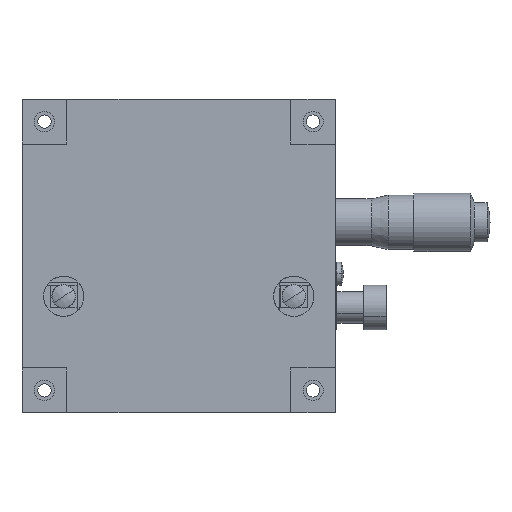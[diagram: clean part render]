
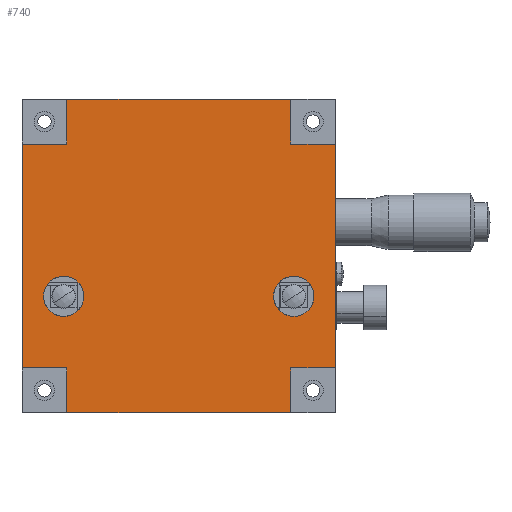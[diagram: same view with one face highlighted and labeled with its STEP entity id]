
A CAD part, front view. The second image highlights one B-rep face of the part: STEP entity #740.
In plain terms, the highlighted planar face has unit normal (0, -1, 0).
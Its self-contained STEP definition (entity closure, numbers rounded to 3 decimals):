
#281 = EDGE_CURVE ( 'NONE', #2828, #2825, #3444, .T. ) ;
#290 = VERTEX_POINT ( 'NONE', #3457 ) ;
#292 = EDGE_CURVE ( 'NONE', #293, #290, #3456, .T. ) ;
#293 = VERTEX_POINT ( 'NONE', #3452 ) ;
#314 = EDGE_CURVE ( 'NONE', #2759, #2756, #4105, .T. ) ;
#322 = EDGE_CURVE ( 'NONE', #323, #348, #4143, .T. ) ;
#323 = VERTEX_POINT ( 'NONE', #4172 ) ;
#348 = VERTEX_POINT ( 'NONE', #4151 ) ;
#470 = VERTEX_POINT ( 'NONE', #3577 ) ;
#472 = EDGE_CURVE ( 'NONE', #348, #470, #3564, .T. ) ;
#563 = EDGE_CURVE ( 'NONE', #733, #760, #3688, .T. ) ;
#564 = EDGE_LOOP ( 'NONE', ( #779, #780 ) ) ;
#570 = VERTEX_POINT ( 'NONE', #3689 ) ;
#572 = EDGE_CURVE ( 'NONE', #573, #570, #3711, .T. ) ;
#573 = VERTEX_POINT ( 'NONE', #3696 ) ;
#591 = ORIENTED_EDGE ( 'NONE', *, *, #670, .T. ) ;
#592 = ORIENTED_EDGE ( 'NONE', *, *, #593, .F. ) ;
#593 = EDGE_CURVE ( 'NONE', #736, #724, #3805, .T. ) ;
#594 = EDGE_LOOP ( 'NONE', ( #595, #591, #592, #777, #778, #653, #656, #658, #659, #694, #766, #767 ) ) ;
#595 = ORIENTED_EDGE ( 'NONE', *, *, #572, .T. ) ;
#653 = ORIENTED_EDGE ( 'NONE', *, *, #654, .F. ) ;
#654 = EDGE_CURVE ( 'NONE', #655, #760, #3771, .T. ) ;
#655 = VERTEX_POINT ( 'NONE', #3767 ) ;
#656 = ORIENTED_EDGE ( 'NONE', *, *, #657, .T. ) ;
#657 = EDGE_CURVE ( 'NONE', #655, #293, #3766, .T. ) ;
#658 = ORIENTED_EDGE ( 'NONE', *, *, #292, .T. ) ;
#659 = ORIENTED_EDGE ( 'NONE', *, *, #660, .F. ) ;
#660 = EDGE_CURVE ( 'NONE', #323, #290, #3825, .T. ) ;
#670 = EDGE_CURVE ( 'NONE', #570, #724, #3838, .T. ) ;
#694 = ORIENTED_EDGE ( 'NONE', *, *, #322, .T. ) ;
#724 = VERTEX_POINT ( 'NONE', #3883 ) ;
#733 = VERTEX_POINT ( 'NONE', #3904 ) ;
#735 = EDGE_CURVE ( 'NONE', #736, #733, #3903, .T. ) ;
#736 = VERTEX_POINT ( 'NONE', #3896 ) ;
#740 = ADVANCED_FACE ( 'NONE', ( #3893, #3888, #3991 ), #3990, .F. ) ;
#760 = VERTEX_POINT ( 'NONE', #3938 ) ;
#766 = ORIENTED_EDGE ( 'NONE', *, *, #472, .T. ) ;
#767 = ORIENTED_EDGE ( 'NONE', *, *, #768, .F. ) ;
#768 = EDGE_CURVE ( 'NONE', #573, #470, #3920, .T. ) ;
#769 = EDGE_LOOP ( 'NONE', ( #770, #771 ) ) ;
#770 = ORIENTED_EDGE ( 'NONE', *, *, #281, .F. ) ;
#771 = ORIENTED_EDGE ( 'NONE', *, *, #2827, .F. ) ;
#777 = ORIENTED_EDGE ( 'NONE', *, *, #735, .T. ) ;
#778 = ORIENTED_EDGE ( 'NONE', *, *, #563, .T. ) ;
#779 = ORIENTED_EDGE ( 'NONE', *, *, #314, .F. ) ;
#780 = ORIENTED_EDGE ( 'NONE', *, *, #2758, .F. ) ;
#2756 = VERTEX_POINT ( 'NONE', #7173 ) ;
#2758 = EDGE_CURVE ( 'NONE', #2756, #2759, #7172, .T. ) ;
#2759 = VERTEX_POINT ( 'NONE', #7167 ) ;
#2825 = VERTEX_POINT ( 'NONE', #7447 ) ;
#2827 = EDGE_CURVE ( 'NONE', #2825, #2828, #7502, .T. ) ;
#2828 = VERTEX_POINT ( 'NONE', #7497 ) ;
#3424 = DIRECTION ( 'NONE',  ( 0., 0., -1. ) ) ;
#3441 = DIRECTION ( 'NONE',  ( 0., -1., 0. ) ) ;
#3442 = CARTESIAN_POINT ( 'NONE',  ( -25.7, 0.5, -9. ) ) ;
#3443 = AXIS2_PLACEMENT_3D ( 'NONE', #3442, #3441, #3424 ) ;
#3444 = CIRCLE ( 'NONE', #3443, 4.5 ) ;
#3452 = CARTESIAN_POINT ( 'NONE',  ( -25., 0.5, -25. ) ) ;
#3453 = DIRECTION ( 'NONE',  ( 0., 0., -1. ) ) ;
#3454 = VECTOR ( 'NONE', #3453, 1000. ) ;
#3455 = CARTESIAN_POINT ( 'NONE',  ( -25., 0.5, -35. ) ) ;
#3456 = LINE ( 'NONE', #3455, #3454 ) ;
#3457 = CARTESIAN_POINT ( 'NONE',  ( -25., 0.5, -35. ) ) ;
#3563 = CARTESIAN_POINT ( 'NONE',  ( 35., 0.5, -25. ) ) ;
#3564 = LINE ( 'NONE', #3563, #3573 ) ;
#3572 = DIRECTION ( 'NONE',  ( 1., 0., 0. ) ) ;
#3573 = VECTOR ( 'NONE', #3572, 1000. ) ;
#3577 = CARTESIAN_POINT ( 'NONE',  ( 35., 0.5, -25. ) ) ;
#3685 = DIRECTION ( 'NONE',  ( -1., 0., 0. ) ) ;
#3686 = VECTOR ( 'NONE', #3685, 1000. ) ;
#3687 = CARTESIAN_POINT ( 'NONE',  ( -35., 0.5, 25. ) ) ;
#3688 = LINE ( 'NONE', #3687, #3686 ) ;
#3689 = CARTESIAN_POINT ( 'NONE',  ( 25., 0.5, 25. ) ) ;
#3696 = CARTESIAN_POINT ( 'NONE',  ( 35., 0.5, 25. ) ) ;
#3708 = DIRECTION ( 'NONE',  ( -1., 0., 0. ) ) ;
#3709 = VECTOR ( 'NONE', #3708, 1000. ) ;
#3710 = CARTESIAN_POINT ( 'NONE',  ( 35., 0.5, 25. ) ) ;
#3711 = LINE ( 'NONE', #3710, #3709 ) ;
#3726 = DIRECTION ( 'NONE',  ( 1., 0., 0. ) ) ;
#3727 = VECTOR ( 'NONE', #3726, 1000. ) ;
#3764 = VECTOR ( 'NONE', #3826, 1000. ) ;
#3765 = CARTESIAN_POINT ( 'NONE',  ( -35., 0.5, -25. ) ) ;
#3766 = LINE ( 'NONE', #3765, #3764 ) ;
#3767 = CARTESIAN_POINT ( 'NONE',  ( -35., 0.5, -25. ) ) ;
#3768 = DIRECTION ( 'NONE',  ( 0., 0., 1. ) ) ;
#3769 = VECTOR ( 'NONE', #3768, 1000. ) ;
#3770 = CARTESIAN_POINT ( 'NONE',  ( -35., 0.5, 35. ) ) ;
#3771 = LINE ( 'NONE', #3770, #3769 ) ;
#3801 = DIRECTION ( 'NONE',  ( 0., 0., 1. ) ) ;
#3802 = VECTOR ( 'NONE', #3801, 1000. ) ;
#3803 = CARTESIAN_POINT ( 'NONE',  ( 25., 0.5, 35. ) ) ;
#3804 = CARTESIAN_POINT ( 'NONE',  ( 35., 0.5, 35. ) ) ;
#3805 = LINE ( 'NONE', #3804, #3727 ) ;
#3822 = DIRECTION ( 'NONE',  ( -1., 0., 0. ) ) ;
#3823 = VECTOR ( 'NONE', #3822, 1000. ) ;
#3824 = CARTESIAN_POINT ( 'NONE',  ( 35., 0.5, -35. ) ) ;
#3825 = LINE ( 'NONE', #3824, #3823 ) ;
#3826 = DIRECTION ( 'NONE',  ( 1., 0., 0. ) ) ;
#3838 = LINE ( 'NONE', #3803, #3802 ) ;
#3851 = DIRECTION ( 'NONE',  ( 0., 0., -1. ) ) ;
#3852 = VECTOR ( 'NONE', #3851, 1000. ) ;
#3853 = CARTESIAN_POINT ( 'NONE',  ( 35., 0.5, 35. ) ) ;
#3883 = CARTESIAN_POINT ( 'NONE',  ( 25., 0.5, 35. ) ) ;
#3888 = FACE_OUTER_BOUND ( 'NONE', #594, .T. ) ;
#3893 = FACE_BOUND ( 'NONE', #564, .T. ) ;
#3896 = CARTESIAN_POINT ( 'NONE',  ( -25., 0.5, 35. ) ) ;
#3900 = DIRECTION ( 'NONE',  ( 0., 0., -1. ) ) ;
#3901 = VECTOR ( 'NONE', #3900, 1000. ) ;
#3902 = CARTESIAN_POINT ( 'NONE',  ( -25., 0.5, 35. ) ) ;
#3903 = LINE ( 'NONE', #3902, #3901 ) ;
#3904 = CARTESIAN_POINT ( 'NONE',  ( -25., 0.5, 25. ) ) ;
#3920 = LINE ( 'NONE', #3853, #3852 ) ;
#3938 = CARTESIAN_POINT ( 'NONE',  ( -35., 0.5, 25. ) ) ;
#3986 = DIRECTION ( 'NONE',  ( 0., 0., -1. ) ) ;
#3987 = DIRECTION ( 'NONE',  ( 0., 1., 0. ) ) ;
#3988 = CARTESIAN_POINT ( 'NONE',  ( 0., 0.5, 0. ) ) ;
#3989 = AXIS2_PLACEMENT_3D ( 'NONE', #3988, #3987, #3986 ) ;
#3990 = PLANE ( 'NONE',  #3989 ) ;
#3991 = FACE_BOUND ( 'NONE', #769, .T. ) ;
#4105 = CIRCLE ( 'NONE', #4229, 4.5 ) ;
#4143 = LINE ( 'NONE', #4175, #4174 ) ;
#4151 = CARTESIAN_POINT ( 'NONE',  ( 25., 0.5, -25. ) ) ;
#4172 = CARTESIAN_POINT ( 'NONE',  ( 25., 0.5, -35. ) ) ;
#4173 = DIRECTION ( 'NONE',  ( 0., 0., 1. ) ) ;
#4174 = VECTOR ( 'NONE', #4173, 1000. ) ;
#4175 = CARTESIAN_POINT ( 'NONE',  ( 25., 0.5, -35. ) ) ;
#4226 = DIRECTION ( 'NONE',  ( 0., 0., -1. ) ) ;
#4227 = DIRECTION ( 'NONE',  ( 0., -1., 0. ) ) ;
#4228 = CARTESIAN_POINT ( 'NONE',  ( 25.7, 0.5, -9. ) ) ;
#4229 = AXIS2_PLACEMENT_3D ( 'NONE', #4228, #4227, #4226 ) ;
#7167 = CARTESIAN_POINT ( 'NONE',  ( 25.7, 0.5, -4.5 ) ) ;
#7168 = DIRECTION ( 'NONE',  ( 0., 0., -1. ) ) ;
#7169 = DIRECTION ( 'NONE',  ( 0., -1., 0. ) ) ;
#7170 = CARTESIAN_POINT ( 'NONE',  ( 25.7, 0.5, -9. ) ) ;
#7171 = AXIS2_PLACEMENT_3D ( 'NONE', #7170, #7169, #7168 ) ;
#7172 = CIRCLE ( 'NONE', #7171, 4.5 ) ;
#7173 = CARTESIAN_POINT ( 'NONE',  ( 25.7, 0.5, -13.5 ) ) ;
#7447 = CARTESIAN_POINT ( 'NONE',  ( -25.7, 0.5, -13.5 ) ) ;
#7497 = CARTESIAN_POINT ( 'NONE',  ( -25.7, 0.5, -4.5 ) ) ;
#7498 = DIRECTION ( 'NONE',  ( 0., 0., -1. ) ) ;
#7499 = DIRECTION ( 'NONE',  ( 0., -1., 0. ) ) ;
#7500 = CARTESIAN_POINT ( 'NONE',  ( -25.7, 0.5, -9. ) ) ;
#7501 = AXIS2_PLACEMENT_3D ( 'NONE', #7500, #7499, #7498 ) ;
#7502 = CIRCLE ( 'NONE', #7501, 4.5 ) ;
